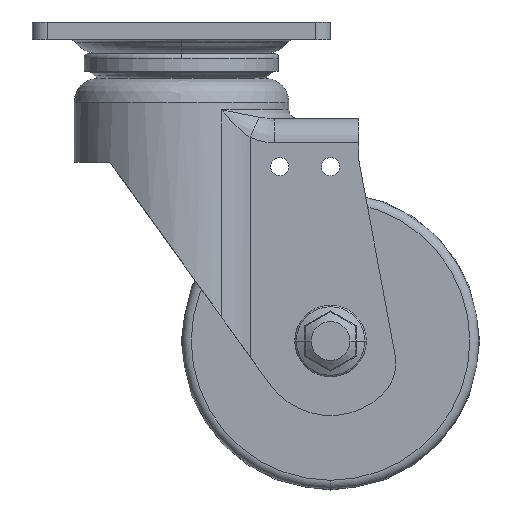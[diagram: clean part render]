
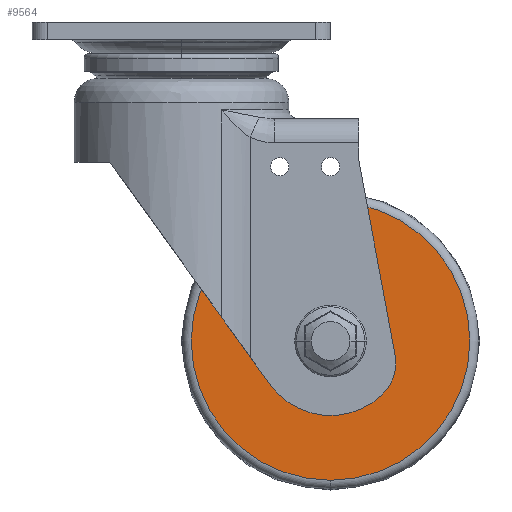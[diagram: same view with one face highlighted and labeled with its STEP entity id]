
A CAD part, front view. The second image highlights one B-rep face of the part: STEP entity #9564.
In plain terms, the highlighted planar face has unit normal (0, -1, 0) as drawn and (0, 0, 1) by its records, which use the part's own axes.
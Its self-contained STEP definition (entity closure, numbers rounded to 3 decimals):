
#6666=CARTESIAN_POINT('',(101.278,61.214,0.));
#6667=VERTEX_POINT('',#6666);
#6676=CARTESIAN_POINT('',(101.278,-32.204,0.));
#6677=VERTEX_POINT('',#6676);
#6685=CARTESIAN_POINT('',(101.278,14.505,0.));
#6686=DIRECTION('',(0.0,0.0,-1.0));
#6687=DIRECTION('',(0.0,1.0,0.0));
#6688=AXIS2_PLACEMENT_3D('',#6685,#6686,#6687);
#6689=CIRCLE('',#6688,46.709);
#6690=EDGE_CURVE('',#6677,#6667,#6689,.T.);
#6734=CARTESIAN_POINT('',(101.278,24.505,0.));
#6735=VERTEX_POINT('',#6734);
#6744=CARTESIAN_POINT('',(101.278,4.505,0.));
#6745=VERTEX_POINT('',#6744);
#6746=CARTESIAN_POINT('',(101.278,14.505,0.));
#6747=DIRECTION('',(0.0,0.0,-1.0));
#6748=DIRECTION('',(0.0,1.0,0.0));
#6749=AXIS2_PLACEMENT_3D('',#6746,#6747,#6748);
#6750=CIRCLE('',#6749,10.);
#6751=EDGE_CURVE('',#6745,#6735,#6750,.T.);
#9497=CARTESIAN_POINT('',(101.278,14.505,0.));
#9498=DIRECTION('',(0.0,0.0,-1.0));
#9499=DIRECTION('',(0.0,1.0,0.0));
#9500=AXIS2_PLACEMENT_3D('',#9497,#9498,#9499);
#9501=CIRCLE('',#9500,10.);
#9502=EDGE_CURVE('',#6735,#6745,#9501,.T.);
#9545=CARTESIAN_POINT('',(101.278,42.86,0.));
#9546=DIRECTION('',(0.0,0.0,1.0));
#9547=DIRECTION('',(0.0,-1.0,0.0));
#9548=AXIS2_PLACEMENT_3D('',#9545,#9546,#9547);
#9549=PLANE('',#9548);
#9550=CARTESIAN_POINT('',(101.278,14.505,0.));
#9551=DIRECTION('',(0.0,0.0,-1.0));
#9552=DIRECTION('',(0.0,1.0,0.0));
#9553=AXIS2_PLACEMENT_3D('',#9550,#9551,#9552);
#9554=CIRCLE('',#9553,46.709);
#9555=EDGE_CURVE('',#6667,#6677,#9554,.T.);
#9556=ORIENTED_EDGE('',*,*,#9555,.F.);
#9557=ORIENTED_EDGE('',*,*,#6690,.F.);
#9558=EDGE_LOOP('',(#9556,#9557));
#9559=FACE_OUTER_BOUND('',#9558,.T.);
#9560=ORIENTED_EDGE('',*,*,#9502,.T.);
#9561=ORIENTED_EDGE('',*,*,#6751,.T.);
#9562=EDGE_LOOP('',(#9560,#9561));
#9563=FACE_BOUND('',#9562,.T.);
#9564=ADVANCED_FACE('',(#9559,#9563),#9549,.T.);
